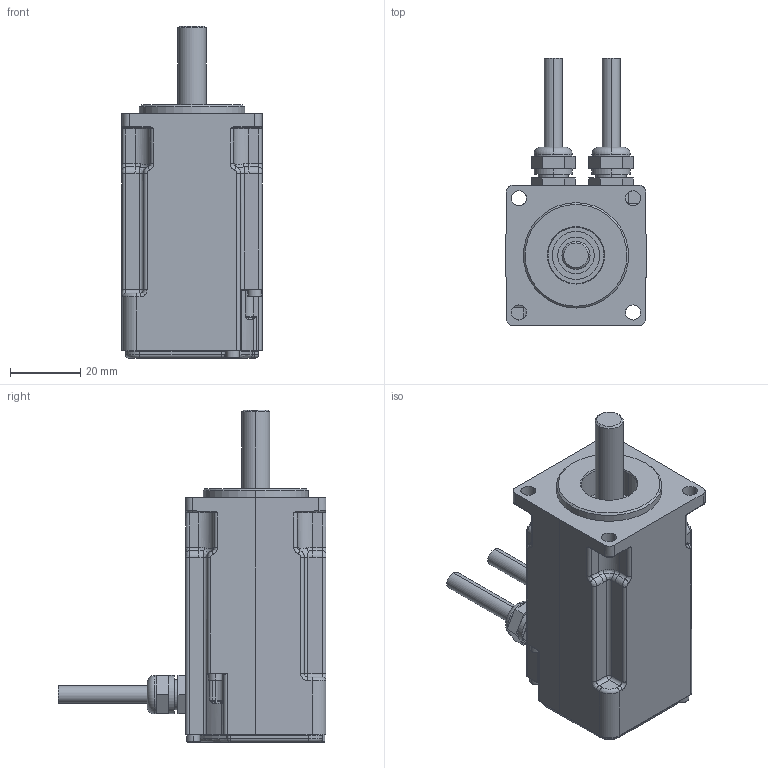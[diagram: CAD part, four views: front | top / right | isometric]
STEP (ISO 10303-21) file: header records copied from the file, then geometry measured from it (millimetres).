
FILE_DESCRIPTION (( 'STEP AP214' ), '1' );
FILE_NAME ('MR7711-Ux-Nxx-G01-AK2-M0-P0.stp', '2009-04-08T13:46:00', ( 'SysAdmin' ), ( 'SolidWorks' ), 'SwSTEP 2.0', 'SolidWorks 2009', '' );
FILE_SCHEMA (( 'AUTOMOTIVE_DESIGN' ));
Length unit declared in the file: millimetre
Products named in the file (1): MR7711-Ux-Nxx-G01-AK2-M0-P0
Bounding box: 40 x 76.33 x 94.6 mm (x, y, z)
Volume: 104624.7 mm3; surface area: 17237.6 mm2
Topology: 1 solids, 1 shells, 446 faces, 1022 edges, 579 vertices
Faces by surface type: cylinder 160, plane 115, bspline 84, torus 59, cone 26, sphere 2
Entity records: 18662 total; most frequent: CARTESIAN_POINT 4556, ORIENTED_EDGE 2012, DIRECTION 1984, EDGE_CURVE 1006, AXIS2_PLACEMENT_3D 789, VERTEX_POINT 579, EDGE_LOOP 471, ADVANCED_FACE 446
